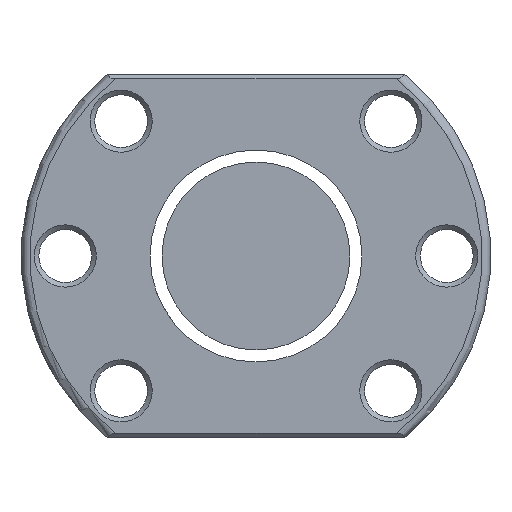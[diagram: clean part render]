
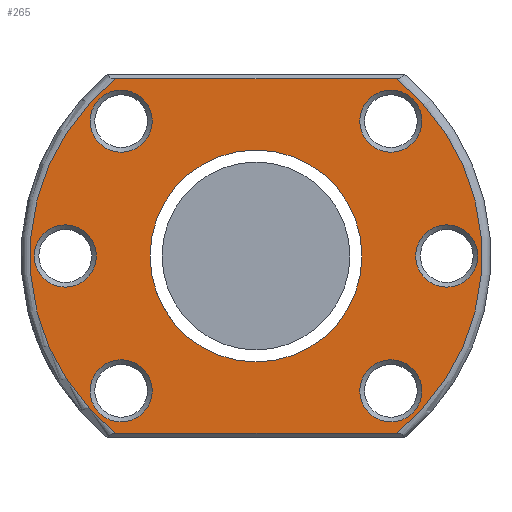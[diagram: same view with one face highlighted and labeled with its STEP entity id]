
A CAD part, left-side view. The second image highlights one B-rep face of the part: STEP entity #265.
In plain terms, the highlighted planar face has unit normal (-1, 0, 0).
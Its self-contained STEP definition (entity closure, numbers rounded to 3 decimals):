
#23 = DIRECTION ( 'NONE',  ( 1., 0., 0. ) ) ;
#24 = CARTESIAN_POINT ( 'NONE',  ( -85., 18.05, 0. ) ) ;
#31 = CIRCLE ( 'NONE', #2168, 5.3 ) ;
#42 = CARTESIAN_POINT ( 'NONE',  ( -85., -37.8, 0. ) ) ;
#46 = EDGE_LOOP ( 'NONE', ( #1976 ) ) ;
#56 = CARTESIAN_POINT ( 'NONE',  ( -85., 22.981, 22.981 ) ) ;
#65 = ORIENTED_EDGE ( 'NONE', *, *, #931, .T. ) ;
#66 = DIRECTION ( 'NONE',  ( -1., 0., 0. ) ) ;
#112 = DIRECTION ( 'NONE',  ( 0., -1., 0. ) ) ;
#126 = CIRCLE ( 'NONE', #2317, 18.05 ) ;
#146 = CARTESIAN_POINT ( 'NONE',  ( -85., 17.681, -22.981 ) ) ;
#181 = ORIENTED_EDGE ( 'NONE', *, *, #1236, .T. ) ;
#207 = FACE_OUTER_BOUND ( 'NONE', #2366, .T. ) ;
#265 = ADVANCED_FACE ( 'NONE', ( #2651, #2635, #1201, #2124, #1884, #1681, #207, #1427 ), #1444, .T. ) ;
#347 = DIRECTION ( 'NONE',  ( 1., 0., 0. ) ) ;
#356 = DIRECTION ( 'NONE',  ( 1., 0., 0. ) ) ;
#383 = AXIS2_PLACEMENT_3D ( 'NONE', #665, #2866, #452 ) ;
#392 = CIRCLE ( 'NONE', #1769, 5.3 ) ;
#443 = EDGE_LOOP ( 'NONE', ( #1940 ) ) ;
#452 = DIRECTION ( 'NONE',  ( 0., -1., 0. ) ) ;
#473 = ORIENTED_EDGE ( 'NONE', *, *, #1241, .T. ) ;
#497 = AXIS2_PLACEMENT_3D ( 'NONE', #1514, #2946, #1006 ) ;
#589 = VECTOR ( 'NONE', #998, 1000. ) ;
#592 = CIRCLE ( 'NONE', #2018, 38.5 ) ;
#622 = CARTESIAN_POINT ( 'NONE',  ( -85., -28.281, -22.981 ) ) ;
#636 = CARTESIAN_POINT ( 'NONE',  ( -85., 27.2, 0. ) ) ;
#663 = EDGE_CURVE ( 'NONE', #2726, #1061, #728, .T. ) ;
#665 = CARTESIAN_POINT ( 'NONE',  ( -85., 40., 0. ) ) ;
#728 = LINE ( 'NONE', #2426, #589 ) ;
#757 = ORIENTED_EDGE ( 'NONE', *, *, #663, .T. ) ;
#786 = AXIS2_PLACEMENT_3D ( 'NONE', #3134, #937, #1020 ) ;
#836 = AXIS2_PLACEMENT_3D ( 'NONE', #56, #23, #2004 ) ;
#843 = VERTEX_POINT ( 'NONE', #622 ) ;
#855 = VERTEX_POINT ( 'NONE', #1130 ) ;
#880 = CARTESIAN_POINT ( 'NONE',  ( -85., 23.879, 30.2 ) ) ;
#883 = VERTEX_POINT ( 'NONE', #1829 ) ;
#931 = EDGE_CURVE ( 'NONE', #1942, #1087, #1202, .T. ) ;
#937 = DIRECTION ( 'NONE',  ( 1., 0., 0. ) ) ;
#977 = EDGE_LOOP ( 'NONE', ( #2438 ) ) ;
#998 = DIRECTION ( 'NONE',  ( 0., 1., 0. ) ) ;
#1006 = DIRECTION ( 'NONE',  ( 0., -1., 0. ) ) ;
#1020 = DIRECTION ( 'NONE',  ( 0., -1., 0. ) ) ;
#1041 = EDGE_CURVE ( 'NONE', #2020, #2020, #126, .T. ) ;
#1057 = EDGE_LOOP ( 'NONE', ( #473 ) ) ;
#1061 = VERTEX_POINT ( 'NONE', #880 ) ;
#1087 = VERTEX_POINT ( 'NONE', #2835 ) ;
#1130 = CARTESIAN_POINT ( 'NONE',  ( -85., 17.681, 22.981 ) ) ;
#1174 = EDGE_CURVE ( 'NONE', #1087, #2726, #592, .T. ) ;
#1201 = FACE_BOUND ( 'NONE', #1057, .T. ) ;
#1202 = LINE ( 'NONE', #2618, #1858 ) ;
#1236 = EDGE_CURVE ( 'NONE', #1061, #1942, #2071, .T. ) ;
#1241 = EDGE_CURVE ( 'NONE', #2227, #2227, #3083, .T. ) ;
#1262 = ORIENTED_EDGE ( 'NONE', *, *, #1589, .T. ) ;
#1295 = EDGE_LOOP ( 'NONE', ( #1304 ) ) ;
#1304 = ORIENTED_EDGE ( 'NONE', *, *, #1899, .T. ) ;
#1365 = CARTESIAN_POINT ( 'NONE',  ( -85., -22.981, 22.981 ) ) ;
#1427 = FACE_BOUND ( 'NONE', #2452, .T. ) ;
#1444 = PLANE ( 'NONE',  #383 ) ;
#1514 = CARTESIAN_POINT ( 'NONE',  ( -85., 22.981, -22.981 ) ) ;
#1539 = DIRECTION ( 'NONE',  ( 0., -1., 0. ) ) ;
#1554 = DIRECTION ( 'NONE',  ( -1., 0., 0. ) ) ;
#1571 = CARTESIAN_POINT ( 'NONE',  ( -85., 0., 0. ) ) ;
#1575 = DIRECTION ( 'NONE',  ( 0., -1., 0. ) ) ;
#1589 = EDGE_CURVE ( 'NONE', #843, #843, #31, .T. ) ;
#1593 = DIRECTION ( 'NONE',  ( 1., 0., 0. ) ) ;
#1608 = CIRCLE ( 'NONE', #786, 5.3 ) ;
#1660 = DIRECTION ( 'NONE',  ( 1., 0., 0. ) ) ;
#1681 = FACE_BOUND ( 'NONE', #46, .T. ) ;
#1769 = AXIS2_PLACEMENT_3D ( 'NONE', #1365, #1593, #3071 ) ;
#1829 = CARTESIAN_POINT ( 'NONE',  ( -85., -28.281, 22.981 ) ) ;
#1852 = VERTEX_POINT ( 'NONE', #636 ) ;
#1858 = VECTOR ( 'NONE', #2158, 1000. ) ;
#1866 = DIRECTION ( 'NONE',  ( 0., 1., 0. ) ) ;
#1874 = EDGE_CURVE ( 'NONE', #1852, #1852, #1608, .T. ) ;
#1884 = FACE_BOUND ( 'NONE', #1295, .T. ) ;
#1899 = EDGE_CURVE ( 'NONE', #855, #855, #1967, .T. ) ;
#1940 = ORIENTED_EDGE ( 'NONE', *, *, #3072, .T. ) ;
#1942 = VERTEX_POINT ( 'NONE', #2258 ) ;
#1967 = CIRCLE ( 'NONE', #836, 5.3 ) ;
#1976 = ORIENTED_EDGE ( 'NONE', *, *, #1874, .T. ) ;
#2004 = DIRECTION ( 'NONE',  ( 0., -1., 0. ) ) ;
#2012 = DIRECTION ( 'NONE',  ( 0., -1., 0. ) ) ;
#2018 = AXIS2_PLACEMENT_3D ( 'NONE', #2968, #66, #2012 ) ;
#2020 = VERTEX_POINT ( 'NONE', #24 ) ;
#2066 = CARTESIAN_POINT ( 'NONE',  ( -85., -22.981, -22.981 ) ) ;
#2071 = CIRCLE ( 'NONE', #2778, 38.5 ) ;
#2124 = FACE_BOUND ( 'NONE', #443, .T. ) ;
#2158 = DIRECTION ( 'NONE',  ( 0., -1., 0. ) ) ;
#2168 = AXIS2_PLACEMENT_3D ( 'NONE', #2066, #347, #1575 ) ;
#2174 = CIRCLE ( 'NONE', #497, 5.3 ) ;
#2227 = VERTEX_POINT ( 'NONE', #42 ) ;
#2258 = CARTESIAN_POINT ( 'NONE',  ( -85., 23.879, -30.2 ) ) ;
#2268 = CARTESIAN_POINT ( 'NONE',  ( -85., -32.5, 0. ) ) ;
#2277 = EDGE_LOOP ( 'NONE', ( #1262 ) ) ;
#2317 = AXIS2_PLACEMENT_3D ( 'NONE', #2587, #1660, #1866 ) ;
#2333 = VERTEX_POINT ( 'NONE', #146 ) ;
#2366 = EDGE_LOOP ( 'NONE', ( #65, #3103, #757, #181 ) ) ;
#2426 = CARTESIAN_POINT ( 'NONE',  ( -85., 25.278, 30.2 ) ) ;
#2438 = ORIENTED_EDGE ( 'NONE', *, *, #3146, .T. ) ;
#2452 = EDGE_LOOP ( 'NONE', ( #2926 ) ) ;
#2587 = CARTESIAN_POINT ( 'NONE',  ( -85., 0., 0. ) ) ;
#2618 = CARTESIAN_POINT ( 'NONE',  ( -85., -25.278, -30.2 ) ) ;
#2635 = FACE_BOUND ( 'NONE', #2277, .T. ) ;
#2651 = FACE_BOUND ( 'NONE', #977, .T. ) ;
#2726 = VERTEX_POINT ( 'NONE', #2752 ) ;
#2752 = CARTESIAN_POINT ( 'NONE',  ( -85., -23.879, 30.2 ) ) ;
#2778 = AXIS2_PLACEMENT_3D ( 'NONE', #1571, #1554, #112 ) ;
#2835 = CARTESIAN_POINT ( 'NONE',  ( -85., -23.879, -30.2 ) ) ;
#2866 = DIRECTION ( 'NONE',  ( -1., 0., 0. ) ) ;
#2926 = ORIENTED_EDGE ( 'NONE', *, *, #1041, .T. ) ;
#2946 = DIRECTION ( 'NONE',  ( 1., 0., 0. ) ) ;
#2968 = CARTESIAN_POINT ( 'NONE',  ( -85., 0., 0. ) ) ;
#2984 = AXIS2_PLACEMENT_3D ( 'NONE', #2268, #356, #1539 ) ;
#3071 = DIRECTION ( 'NONE',  ( 0., -1., 0. ) ) ;
#3072 = EDGE_CURVE ( 'NONE', #883, #883, #392, .T. ) ;
#3083 = CIRCLE ( 'NONE', #2984, 5.3 ) ;
#3103 = ORIENTED_EDGE ( 'NONE', *, *, #1174, .T. ) ;
#3134 = CARTESIAN_POINT ( 'NONE',  ( -85., 32.5, 0. ) ) ;
#3146 = EDGE_CURVE ( 'NONE', #2333, #2333, #2174, .T. ) ;
